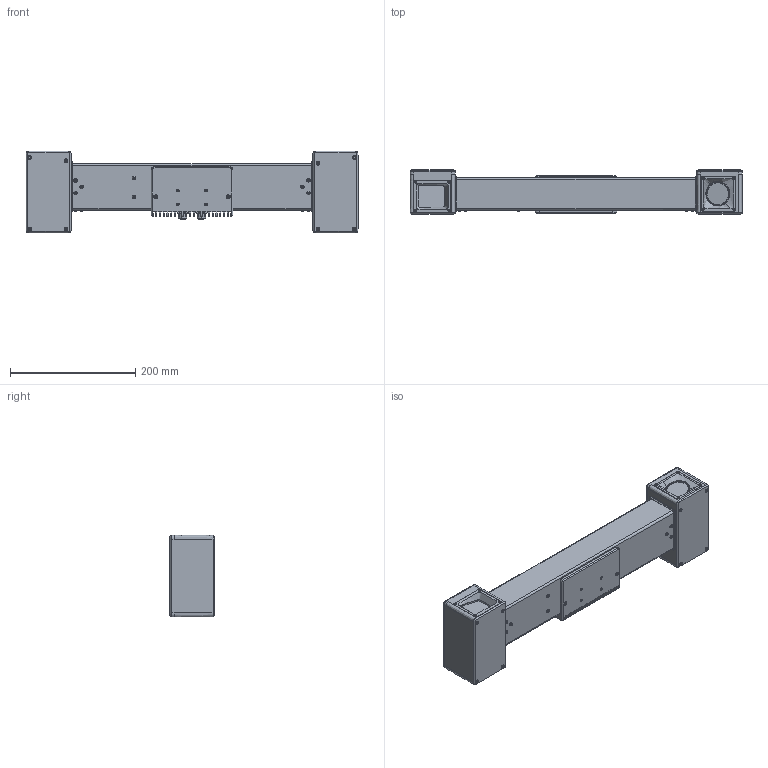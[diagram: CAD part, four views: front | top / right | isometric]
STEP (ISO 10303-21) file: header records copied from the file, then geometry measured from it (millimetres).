
FILE_DESCRIPTION(/* description */ (''),/* implementation_level */ '2;1');
FILE_NAME(/* name */ 'RVC-G31800',/* time_stamp */ '2024-01-17T12:12:57+08:00',/* author */ (''),/* organization */ (''),/* preprocessor_version */ 'ST-DEVELOPER v16.5',/* originating_system */ 'Rhino 7.25',/* authorisation */ '');
FILE_SCHEMA (('CONFIG_CONTROL_DESIGN'));
Length unit declared in the file: millimetre
Products named in the file (1): Document
Bounding box: 530 x 71.1 x 130 mm (x, y, z)
Volume: 2886521.9 mm3; surface area: 231764 mm2
Topology: 1 solids, 1 shells, 1928 faces, 4642 edges, 2910 vertices
Faces by surface type: plane 1030, bspline 588, cylinder 310
Entity records: 81522 total; most frequent: CARTESIAN_POINT 49699, ORIENTED_EDGE 9260, EDGE_CURVE 4630, B_SPLINE_CURVE_WITH_KNOTS 3615, VERTEX_POINT 2910, EDGE_LOOP 2136, ADVANCED_FACE 1928, FACE_OUTER_BOUND 1928
